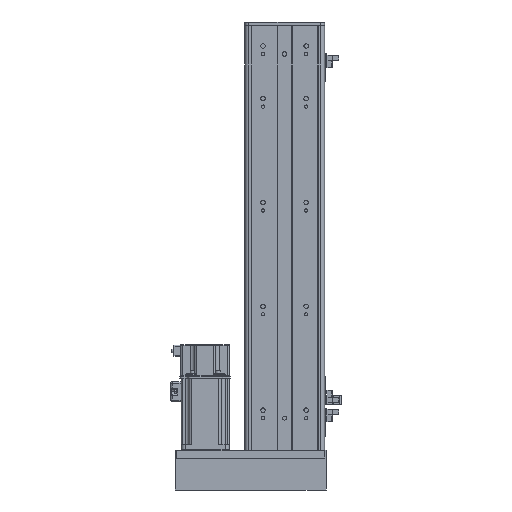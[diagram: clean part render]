
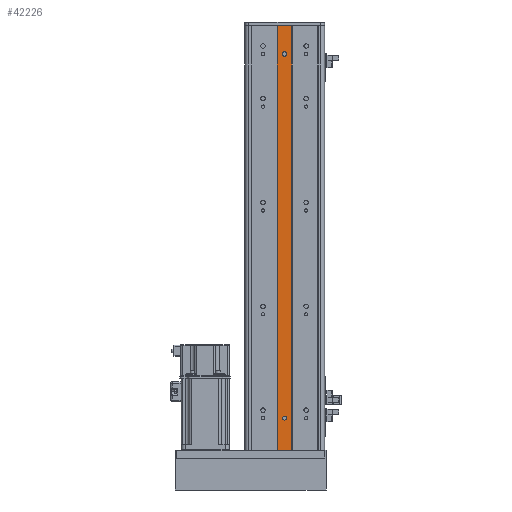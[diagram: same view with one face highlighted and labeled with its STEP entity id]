
A CAD part, front view. The second image highlights one B-rep face of the part: STEP entity #42226.
In plain terms, the highlighted planar face has unit normal (0, -1, 0).
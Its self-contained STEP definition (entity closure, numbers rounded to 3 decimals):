
#389 = AXIS2_PLACEMENT_3D ( 'NONE', #16504, #16958, #11177 ) ;
#1575 = DIRECTION ( 'NONE',  ( 1., 0., 0. ) ) ;
#1930 = ORIENTED_EDGE ( 'NONE', *, *, #64634, .T. ) ;
#3158 = CARTESIAN_POINT ( 'NONE',  ( 0., 1.309, 130. ) ) ;
#4286 = ORIENTED_EDGE ( 'NONE', *, *, #15894, .T. ) ;
#4895 = VERTEX_POINT ( 'NONE', #17263 ) ;
#5162 = CARTESIAN_POINT ( 'NONE',  ( 9., 1.309, 130. ) ) ;
#6829 = LINE ( 'NONE', #43951, #58255 ) ;
#6913 = ORIENTED_EDGE ( 'NONE', *, *, #18730, .T. ) ;
#7275 = ORIENTED_EDGE ( 'NONE', *, *, #54390, .T. ) ;
#7376 = CARTESIAN_POINT ( 'NONE',  ( -2.5, 1.309, 626.5 ) ) ;
#7439 = EDGE_CURVE ( 'NONE', #8013, #16898, #6829, .T. ) ;
#7834 = ORIENTED_EDGE ( 'NONE', *, *, #57547, .T. ) ;
#8013 = VERTEX_POINT ( 'NONE', #26279 ) ;
#8630 = VERTEX_POINT ( 'NONE', #63265 ) ;
#8795 = CARTESIAN_POINT ( 'NONE',  ( -2.5, 1.309, 170. ) ) ;
#9478 = LINE ( 'NONE', #39202, #48458 ) ;
#10283 = EDGE_CURVE ( 'NONE', #65363, #4895, #19533, .T. ) ;
#10430 = AXIS2_PLACEMENT_3D ( 'NONE', #27957, #33486, #38826 ) ;
#11096 = AXIS2_PLACEMENT_3D ( 'NONE', #47492, #57975, #15734 ) ;
#11177 = DIRECTION ( 'NONE',  ( 0., 0., 1. ) ) ;
#14765 = ORIENTED_EDGE ( 'NONE', *, *, #10283, .T. ) ;
#15094 = ORIENTED_EDGE ( 'NONE', *, *, #7439, .F. ) ;
#15734 = DIRECTION ( 'NONE',  ( 0., 0., 1. ) ) ;
#15894 = EDGE_CURVE ( 'NONE', #23774, #49869, #63273, .T. ) ;
#16504 = CARTESIAN_POINT ( 'NONE',  ( 0., 1.309, 661. ) ) ;
#16898 = VERTEX_POINT ( 'NONE', #55516 ) ;
#16958 = DIRECTION ( 'NONE',  ( 0., 1., 0. ) ) ;
#17263 = CARTESIAN_POINT ( 'NONE',  ( 2.5, 1.309, 170. ) ) ;
#18692 = DIRECTION ( 'NONE',  ( 0., 0., 1. ) ) ;
#18730 = EDGE_CURVE ( 'NONE', #45525, #58537, #36761, .T. ) ;
#19533 = CIRCLE ( 'NONE', #11096, 2.5 ) ;
#21372 = ORIENTED_EDGE ( 'NONE', *, *, #35848, .T. ) ;
#21391 = CIRCLE ( 'NONE', #31590, 2.5 ) ;
#21412 = EDGE_LOOP ( 'NONE', ( #21372, #4286, #1930, #6913 ) ) ;
#23774 = VERTEX_POINT ( 'NONE', #7376 ) ;
#25317 = CARTESIAN_POINT ( 'NONE',  ( 2.5, 1.309, 626.5 ) ) ;
#25685 = VECTOR ( 'NONE', #36756, 1000. ) ;
#26279 = CARTESIAN_POINT ( 'NONE',  ( -9., 1.309, 661. ) ) ;
#27957 = CARTESIAN_POINT ( 'NONE',  ( 0., 1.309, 625.5 ) ) ;
#28791 = DIRECTION ( 'NONE',  ( 0., 0., -1. ) ) ;
#29007 = LINE ( 'NONE', #31202, #25685 ) ;
#30365 = FACE_BOUND ( 'NONE', #21412, .T. ) ;
#31202 = CARTESIAN_POINT ( 'NONE',  ( -2.5, 1.309, 661. ) ) ;
#31590 = AXIS2_PLACEMENT_3D ( 'NONE', #50680, #45102, #18692 ) ;
#31624 = CARTESIAN_POINT ( 'NONE',  ( 9., 1.309, 661. ) ) ;
#31797 = DIRECTION ( 'NONE',  ( 0., 0., 1. ) ) ;
#33486 = DIRECTION ( 'NONE',  ( 0., 1., 0. ) ) ;
#33919 = CARTESIAN_POINT ( 'NONE',  ( 2.5, 1.309, 625.5 ) ) ;
#34100 = CARTESIAN_POINT ( 'NONE',  ( -9., 1.309, 661. ) ) ;
#34503 = FACE_OUTER_BOUND ( 'NONE', #61624, .T. ) ;
#35132 = ORIENTED_EDGE ( 'NONE', *, *, #44424, .F. ) ;
#35848 = EDGE_CURVE ( 'NONE', #58537, #23774, #29007, .T. ) ;
#36389 = VERTEX_POINT ( 'NONE', #5162 ) ;
#36756 = DIRECTION ( 'NONE',  ( 0., 0., 1. ) ) ;
#36761 = CIRCLE ( 'NONE', #10430, 2.5 ) ;
#38472 = LINE ( 'NONE', #31624, #64245 ) ;
#38826 = DIRECTION ( 'NONE',  ( 0., 0., 1. ) ) ;
#39202 = CARTESIAN_POINT ( 'NONE',  ( 2.5, 1.309, 661. ) ) ;
#42226 = ADVANCED_FACE ( 'NONE', ( #30365, #65256, #34503 ), #59625, .F. ) ;
#42695 = AXIS2_PLACEMENT_3D ( 'NONE', #68685, #68007, #31797 ) ;
#43314 = EDGE_CURVE ( 'NONE', #16898, #36389, #38472, .T. ) ;
#43951 = CARTESIAN_POINT ( 'NONE',  ( -9., 1.309, 661. ) ) ;
#44424 = EDGE_CURVE ( 'NONE', #36389, #8630, #58332, .T. ) ;
#45102 = DIRECTION ( 'NONE',  ( 0., 1., 0. ) ) ;
#45525 = VERTEX_POINT ( 'NONE', #33919 ) ;
#45855 = VECTOR ( 'NONE', #49981, 1000. ) ;
#47492 = CARTESIAN_POINT ( 'NONE',  ( 0., 1.309, 170. ) ) ;
#47541 = ORIENTED_EDGE ( 'NONE', *, *, #43314, .F. ) ;
#48458 = VECTOR ( 'NONE', #65214, 1000. ) ;
#49869 = VERTEX_POINT ( 'NONE', #25317 ) ;
#49981 = DIRECTION ( 'NONE',  ( -1., 0., 0. ) ) ;
#50012 = VECTOR ( 'NONE', #28791, 1000. ) ;
#50680 = CARTESIAN_POINT ( 'NONE',  ( 0., 1.309, 170. ) ) ;
#54390 = EDGE_CURVE ( 'NONE', #8013, #8630, #64124, .T. ) ;
#55516 = CARTESIAN_POINT ( 'NONE',  ( 9., 1.309, 661. ) ) ;
#57547 = EDGE_CURVE ( 'NONE', #4895, #65363, #21391, .T. ) ;
#57975 = DIRECTION ( 'NONE',  ( 0., 1., 0. ) ) ;
#58255 = VECTOR ( 'NONE', #1575, 1000. ) ;
#58332 = LINE ( 'NONE', #3158, #45855 ) ;
#58537 = VERTEX_POINT ( 'NONE', #62007 ) ;
#59625 = PLANE ( 'NONE',  #389 ) ;
#61072 = EDGE_LOOP ( 'NONE', ( #7834, #14765 ) ) ;
#61624 = EDGE_LOOP ( 'NONE', ( #35132, #47541, #15094, #7275 ) ) ;
#62007 = CARTESIAN_POINT ( 'NONE',  ( -2.5, 1.309, 625.5 ) ) ;
#63265 = CARTESIAN_POINT ( 'NONE',  ( -9., 1.309, 130. ) ) ;
#63273 = CIRCLE ( 'NONE', #42695, 2.5 ) ;
#64124 = LINE ( 'NONE', #34100, #50012 ) ;
#64245 = VECTOR ( 'NONE', #67577, 1000. ) ;
#64634 = EDGE_CURVE ( 'NONE', #49869, #45525, #9478, .T. ) ;
#65214 = DIRECTION ( 'NONE',  ( 0., 0., -1. ) ) ;
#65256 = FACE_BOUND ( 'NONE', #61072, .T. ) ;
#65363 = VERTEX_POINT ( 'NONE', #8795 ) ;
#67577 = DIRECTION ( 'NONE',  ( 0., 0., -1. ) ) ;
#68007 = DIRECTION ( 'NONE',  ( 0., 1., 0. ) ) ;
#68685 = CARTESIAN_POINT ( 'NONE',  ( 0., 1.309, 626.5 ) ) ;
